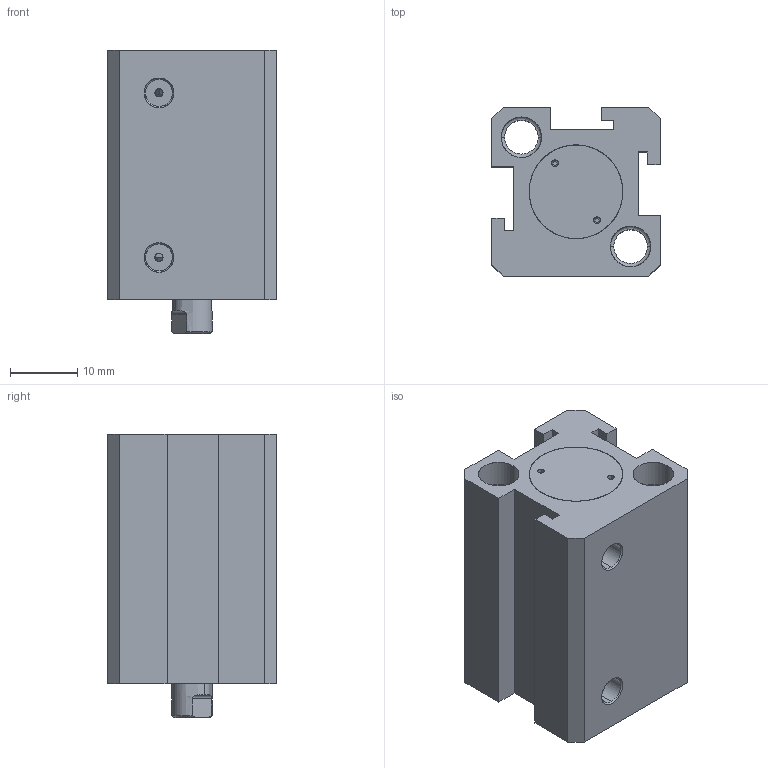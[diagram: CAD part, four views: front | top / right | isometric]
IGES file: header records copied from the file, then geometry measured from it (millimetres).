
Start section: SolidWorks IGES file using analytic representation for surfaces
Global section: file name: D:\ARICA 3D 禽Z軲LER\3D IGES\SDA-S\SDA-S 12\SDA-S-12X10CYLINDER.IGS,1; native system: 5HSolidWorks 2013; preprocessor: SolidWorks 2013; author: user; date: 150727.103143; units: millimetre
Bounding box: 25 x 25 x 42 mm (x, y, z)
Surface area: 11207.9 mm2 (no closed solid volume)
Topology: 0 solids, 0 shells, 177 faces, 2726 edges, 2722 vertices
Faces by surface type: revolution 93, bspline 84
